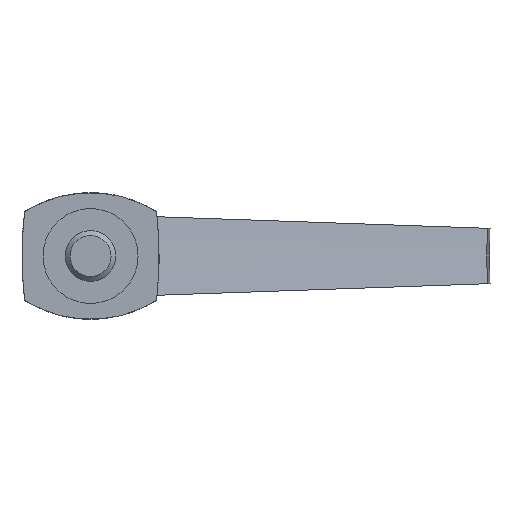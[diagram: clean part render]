
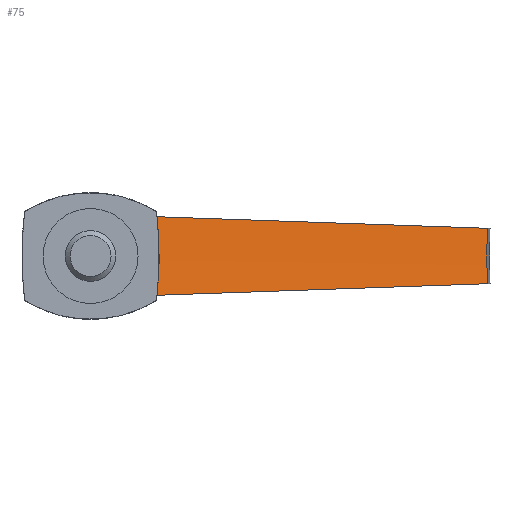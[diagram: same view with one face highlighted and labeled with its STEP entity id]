
A CAD part, front view. The second image highlights one B-rep face of the part: STEP entity #75.
In plain terms, the highlighted conical face has half-angle 70 degrees and reference radius 187 mm.
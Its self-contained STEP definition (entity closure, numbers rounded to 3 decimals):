
#75 = ADVANCED_FACE( '', ( #100 ), #101, .F. );
#100 = FACE_OUTER_BOUND( '', #156, .T. );
#101 = CONICAL_SURFACE( '', #157, 187., 1.222 );
#156 = EDGE_LOOP( '', ( #212, #213, #214, #215 ) );
#157 = AXIS2_PLACEMENT_3D( '', #216, #217, #218 );
#212 = ORIENTED_EDGE( '', *, *, #384, .F. );
#213 = ORIENTED_EDGE( '', *, *, #385, .T. );
#214 = ORIENTED_EDGE( '', *, *, #386, .T. );
#215 = ORIENTED_EDGE( '', *, *, #387, .F. );
#216 = CARTESIAN_POINT( '', ( 188., 14.178, 0. ) );
#217 = DIRECTION( '', ( 0., -1., 0. ) );
#218 = DIRECTION( '', ( 0., 0., -1. ) );
#384 = EDGE_CURVE( '', #434, #435, #436, .T. );
#385 = EDGE_CURVE( '', #434, #437, #438, .T. );
#386 = EDGE_CURVE( '', #437, #439, #440, .T. );
#387 = EDGE_CURVE( '', #435, #439, #441, .T. );
#434 = VERTEX_POINT( '', #520 );
#435 = VERTEX_POINT( '', #521 );
#436 = B_SPLINE_CURVE_WITH_KNOTS( '', 3, ( #522, #523, #524, #525 ), .UNSPECIFIED., .F., .F., ( 4, 4 ), ( 0., 0.013 ), .UNSPECIFIED. );
#437 = VERTEX_POINT( '', #526 );
#438 = LINE( '', #527, #528 );
#439 = VERTEX_POINT( '', #529 );
#440 = CIRCLE( '', #530, 125.416 );
#441 = LINE( '', #531, #532 );
#520 = CARTESIAN_POINT( '', ( 10.51, 17.6, -6.198 ) );
#521 = CARTESIAN_POINT( '', ( 10.51, 17.6, 6.198 ) );
#522 = CARTESIAN_POINT( '', ( 10.51, 17.6, -6.198 ) );
#523 = CARTESIAN_POINT( '', ( 10.933, 17.807, -2.066 ) );
#524 = CARTESIAN_POINT( '', ( 10.933, 17.807, 2.066 ) );
#525 = CARTESIAN_POINT( '', ( 10.51, 17.6, 6.198 ) );
#526 = CARTESIAN_POINT( '', ( 62.66, 36.593, -4.377 ) );
#527 = CARTESIAN_POINT( '', ( 1.114, 14.178, -6.526 ) );
#528 = VECTOR( '', #636, 1000. );
#529 = CARTESIAN_POINT( '', ( 62.66, 36.593, 4.377 ) );
#530 = AXIS2_PLACEMENT_3D( '', #637, #638, #639 );
#531 = CARTESIAN_POINT( '', ( 1.114, 14.178, 6.526 ) );
#532 = VECTOR( '', #640, 1000. );
#636 = DIRECTION( '', ( 0.939, 0.342, 0.033 ) );
#637 = CARTESIAN_POINT( '', ( 188., 36.593, 0. ) );
#638 = DIRECTION( '', ( 0., 1., 0. ) );
#639 = DIRECTION( '', ( 0., 0., 1. ) );
#640 = DIRECTION( '', ( 0.939, 0.342, -0.033 ) );
